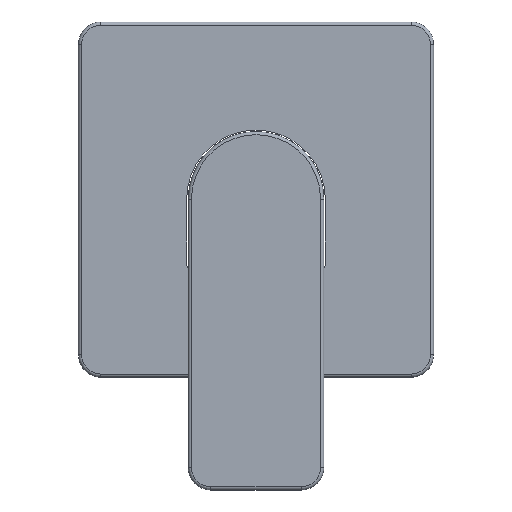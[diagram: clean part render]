
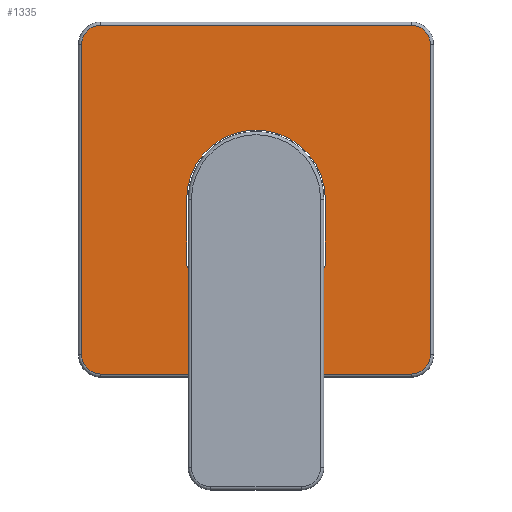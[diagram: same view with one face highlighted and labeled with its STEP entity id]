
A CAD part, top view. The second image highlights one B-rep face of the part: STEP entity #1335.
In plain terms, the highlighted planar face has unit normal (0, 0, 1).
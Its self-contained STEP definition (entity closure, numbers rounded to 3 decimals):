
#14=FACE_BOUND('',#248,.T.);
#162=FACE_OUTER_BOUND('',#247,.T.);
#247=EDGE_LOOP('',(#1183,#1184,#1185,#1186,#1187,#1188,#1189,#1190));
#248=EDGE_LOOP('',(#1191,#1192,#1193,#1194,#1195,#1196));
#309=LINE('',#2274,#407);
#313=LINE('',#2286,#411);
#316=LINE('',#2295,#414);
#334=LINE('',#2353,#432);
#335=LINE('',#2364,#433);
#337=LINE('',#2376,#435);
#339=LINE('',#2388,#437);
#407=VECTOR('',#1816,10.);
#411=VECTOR('',#1828,10.);
#414=VECTOR('',#1839,10.);
#432=VECTOR('',#1897,10.);
#433=VECTOR('',#1910,10.);
#435=VECTOR('',#1924,10.);
#437=VECTOR('',#1938,10.);
#507=CIRCLE('',#1469,1.5);
#509=CIRCLE('',#1473,21.5);
#511=CIRCLE('',#1477,1.5);
#523=CIRCLE('',#1501,6.);
#527=CIRCLE('',#1507,6.);
#531=CIRCLE('',#1513,6.);
#535=CIRCLE('',#1519,6.);
#606=VERTEX_POINT('',#2264);
#607=VERTEX_POINT('',#2266);
#609=VERTEX_POINT('',#2272);
#611=VERTEX_POINT('',#2278);
#613=VERTEX_POINT('',#2284);
#615=VERTEX_POINT('',#2290);
#632=VERTEX_POINT('',#2346);
#635=VERTEX_POINT('',#2351);
#637=VERTEX_POINT('',#2356);
#639=VERTEX_POINT('',#2362);
#641=VERTEX_POINT('',#2368);
#643=VERTEX_POINT('',#2374);
#645=VERTEX_POINT('',#2380);
#647=VERTEX_POINT('',#2386);
#767=EDGE_CURVE('',#607,#606,#507,.T.);
#771=EDGE_CURVE('',#606,#609,#309,.T.);
#774=EDGE_CURVE('',#609,#611,#509,.T.);
#777=EDGE_CURVE('',#611,#613,#313,.T.);
#780=EDGE_CURVE('',#613,#615,#511,.T.);
#782=EDGE_CURVE('',#615,#607,#316,.T.);
#810=EDGE_CURVE('',#635,#632,#334,.T.);
#812=EDGE_CURVE('',#637,#635,#523,.T.);
#815=EDGE_CURVE('',#639,#637,#335,.T.);
#818=EDGE_CURVE('',#641,#639,#527,.T.);
#821=EDGE_CURVE('',#643,#641,#337,.T.);
#824=EDGE_CURVE('',#645,#643,#531,.T.);
#827=EDGE_CURVE('',#647,#645,#339,.T.);
#830=EDGE_CURVE('',#632,#647,#535,.T.);
#1183=ORIENTED_EDGE('',*,*,#810,.F.);
#1184=ORIENTED_EDGE('',*,*,#812,.F.);
#1185=ORIENTED_EDGE('',*,*,#815,.F.);
#1186=ORIENTED_EDGE('',*,*,#818,.F.);
#1187=ORIENTED_EDGE('',*,*,#821,.F.);
#1188=ORIENTED_EDGE('',*,*,#824,.F.);
#1189=ORIENTED_EDGE('',*,*,#827,.F.);
#1190=ORIENTED_EDGE('',*,*,#830,.F.);
#1191=ORIENTED_EDGE('',*,*,#774,.T.);
#1192=ORIENTED_EDGE('',*,*,#777,.T.);
#1193=ORIENTED_EDGE('',*,*,#780,.T.);
#1194=ORIENTED_EDGE('',*,*,#782,.T.);
#1195=ORIENTED_EDGE('',*,*,#767,.T.);
#1196=ORIENTED_EDGE('',*,*,#771,.T.);
#1253=PLANE('',#1526);
#1335=ADVANCED_FACE('',(#162,#14),#1253,.T.);
#1469=AXIS2_PLACEMENT_3D('',#2267,#1809,#1810);
#1473=AXIS2_PLACEMENT_3D('',#2280,#1822,#1823);
#1477=AXIS2_PLACEMENT_3D('',#2292,#1834,#1835);
#1501=AXIS2_PLACEMENT_3D('',#2358,#1902,#1903);
#1507=AXIS2_PLACEMENT_3D('',#2370,#1916,#1917);
#1513=AXIS2_PLACEMENT_3D('',#2382,#1930,#1931);
#1519=AXIS2_PLACEMENT_3D('',#2392,#1944,#1945);
#1526=AXIS2_PLACEMENT_3D('',#2411,#1965,#1966);
#1809=DIRECTION('center_axis',(0.,0.,-1.));
#1810=DIRECTION('ref_axis',(0.,-1.,0.));
#1816=DIRECTION('',(0.,1.,0.));
#1822=DIRECTION('center_axis',(0.,0.,-1.));
#1823=DIRECTION('ref_axis',(-1.,0.,0.));
#1828=DIRECTION('',(0.,-1.,0.));
#1834=DIRECTION('center_axis',(0.,0.,-1.));
#1835=DIRECTION('ref_axis',(1.,0.,0.));
#1839=DIRECTION('',(-1.,0.,0.));
#1897=DIRECTION('',(0.,-1.,0.));
#1902=DIRECTION('center_axis',(0.,0.,-1.));
#1903=DIRECTION('ref_axis',(0.707,0.707,0.));
#1910=DIRECTION('',(1.,0.,0.));
#1916=DIRECTION('center_axis',(0.,0.,-1.));
#1917=DIRECTION('ref_axis',(-0.707,0.707,0.));
#1924=DIRECTION('',(0.,1.,0.));
#1930=DIRECTION('center_axis',(0.,0.,-1.));
#1931=DIRECTION('ref_axis',(-0.707,-0.707,0.));
#1938=DIRECTION('',(-1.,0.,0.));
#1944=DIRECTION('center_axis',(0.,0.,-1.));
#1945=DIRECTION('ref_axis',(0.707,-0.707,0.));
#1965=DIRECTION('center_axis',(0.,0.,1.));
#1966=DIRECTION('ref_axis',(1.,0.,0.));
#2264=CARTESIAN_POINT('',(-21.5,-20.,5.));
#2266=CARTESIAN_POINT('',(-20.,-21.5,5.));
#2267=CARTESIAN_POINT('Origin',(-20.,-20.,5.));
#2272=CARTESIAN_POINT('',(-21.5,0.,5.));
#2274=CARTESIAN_POINT('',(-21.5,-10.,5.));
#2278=CARTESIAN_POINT('',(21.5,0.,5.));
#2280=CARTESIAN_POINT('Origin',(0.,0.,5.));
#2284=CARTESIAN_POINT('',(21.5,-20.,5.));
#2286=CARTESIAN_POINT('',(21.5,0.,5.));
#2290=CARTESIAN_POINT('',(20.,-21.5,5.));
#2292=CARTESIAN_POINT('Origin',(20.,-20.,5.));
#2295=CARTESIAN_POINT('',(10.,-21.5,5.));
#2346=CARTESIAN_POINT('',(54.,-48.,5.));
#2351=CARTESIAN_POINT('',(54.,48.,5.));
#2353=CARTESIAN_POINT('',(54.,-27.5,5.));
#2356=CARTESIAN_POINT('',(48.,54.,5.));
#2358=CARTESIAN_POINT('Origin',(48.,48.,5.));
#2362=CARTESIAN_POINT('',(-48.,54.,5.));
#2364=CARTESIAN_POINT('',(27.5,54.,5.));
#2368=CARTESIAN_POINT('',(-54.,48.,5.));
#2370=CARTESIAN_POINT('Origin',(-48.,48.,5.));
#2374=CARTESIAN_POINT('',(-54.,-48.,5.));
#2376=CARTESIAN_POINT('',(-54.,27.5,5.));
#2380=CARTESIAN_POINT('',(-48.,-54.,5.));
#2382=CARTESIAN_POINT('Origin',(-48.,-48.,5.));
#2386=CARTESIAN_POINT('',(48.,-54.,5.));
#2388=CARTESIAN_POINT('',(-27.5,-54.,5.));
#2392=CARTESIAN_POINT('Origin',(48.,-48.,5.));
#2411=CARTESIAN_POINT('Origin',(0.,0.,5.));
